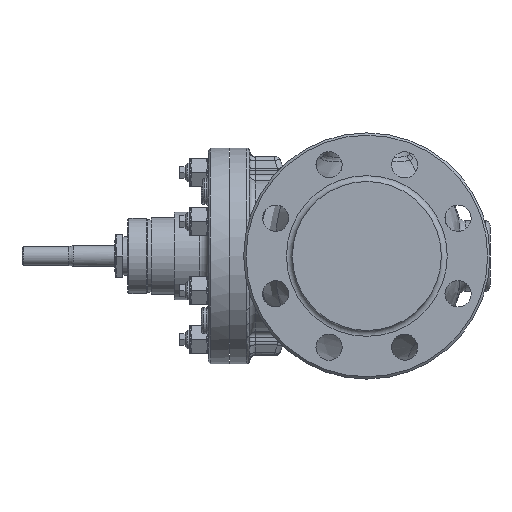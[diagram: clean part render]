
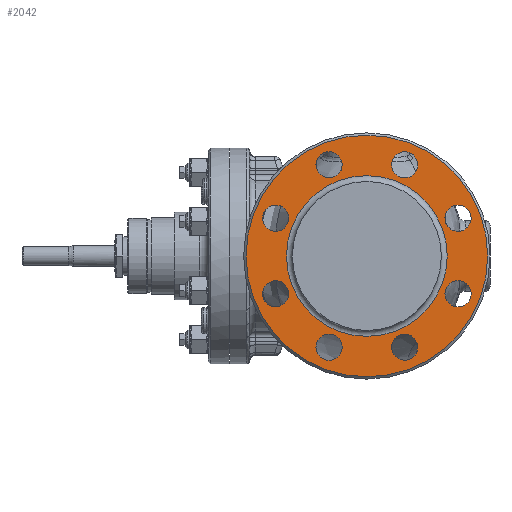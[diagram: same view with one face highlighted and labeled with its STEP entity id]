
A CAD part, left-side view. The second image highlights one B-rep face of the part: STEP entity #2042.
In plain terms, the highlighted planar face has unit normal (-1, 0, 0).
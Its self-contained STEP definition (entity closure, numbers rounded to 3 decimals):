
#141=PLANE('',#8979);
#1167=FACE_BOUND('',#3279,.T.);
#1168=FACE_BOUND('',#3280,.T.);
#1169=FACE_BOUND('',#3281,.T.);
#1170=FACE_BOUND('',#3282,.T.);
#1171=FACE_BOUND('',#3283,.T.);
#1172=FACE_BOUND('',#3284,.T.);
#1173=FACE_BOUND('',#3285,.T.);
#1174=FACE_BOUND('',#3286,.T.);
#1175=FACE_BOUND('',#3287,.T.);
#1176=FACE_BOUND('',#3288,.T.);
#1571=CIRCLE('',#8969,103.);
#1572=CIRCLE('',#8970,11.15);
#1573=CIRCLE('',#8971,11.15);
#1574=CIRCLE('',#8972,11.15);
#1575=CIRCLE('',#8973,11.15);
#1576=CIRCLE('',#8974,11.15);
#1577=CIRCLE('',#8975,11.15);
#1578=CIRCLE('',#8976,11.15);
#1579=CIRCLE('',#8977,11.15);
#1580=CIRCLE('',#8978,68.5);
#2042=ADVANCED_FACE('',(#1167,#1168,#1169,#1170,#1171,#1172,#1173,#1174,
#1175,#1176),#141,.T.);
#3279=EDGE_LOOP('',(#4227));
#3280=EDGE_LOOP('',(#4228));
#3281=EDGE_LOOP('',(#4229));
#3282=EDGE_LOOP('',(#4230));
#3283=EDGE_LOOP('',(#4231));
#3284=EDGE_LOOP('',(#4232));
#3285=EDGE_LOOP('',(#4233));
#3286=EDGE_LOOP('',(#4234));
#3287=EDGE_LOOP('',(#4235));
#3288=EDGE_LOOP('',(#4236));
#4227=ORIENTED_EDGE('',*,*,#7385,.T.);
#4228=ORIENTED_EDGE('',*,*,#7386,.F.);
#4229=ORIENTED_EDGE('',*,*,#7387,.F.);
#4230=ORIENTED_EDGE('',*,*,#7388,.F.);
#4231=ORIENTED_EDGE('',*,*,#7389,.F.);
#4232=ORIENTED_EDGE('',*,*,#7390,.F.);
#4233=ORIENTED_EDGE('',*,*,#7391,.F.);
#4234=ORIENTED_EDGE('',*,*,#7392,.F.);
#4235=ORIENTED_EDGE('',*,*,#7393,.F.);
#4236=ORIENTED_EDGE('',*,*,#7394,.T.);
#6600=VERTEX_POINT('',#13892);
#6601=VERTEX_POINT('',#13894);
#6602=VERTEX_POINT('',#13896);
#6603=VERTEX_POINT('',#13898);
#6604=VERTEX_POINT('',#13900);
#6605=VERTEX_POINT('',#13902);
#6606=VERTEX_POINT('',#13904);
#6607=VERTEX_POINT('',#13906);
#6608=VERTEX_POINT('',#13908);
#6609=VERTEX_POINT('',#13910);
#7385=EDGE_CURVE('',#6600,#6600,#1571,.T.);
#7386=EDGE_CURVE('',#6601,#6601,#1572,.T.);
#7387=EDGE_CURVE('',#6602,#6602,#1573,.T.);
#7388=EDGE_CURVE('',#6603,#6603,#1574,.T.);
#7389=EDGE_CURVE('',#6604,#6604,#1575,.T.);
#7390=EDGE_CURVE('',#6605,#6605,#1576,.T.);
#7391=EDGE_CURVE('',#6606,#6606,#1577,.T.);
#7392=EDGE_CURVE('',#6607,#6607,#1578,.T.);
#7393=EDGE_CURVE('',#6608,#6608,#1579,.T.);
#7394=EDGE_CURVE('',#6609,#6609,#1580,.T.);
#8969=AXIS2_PLACEMENT_3D('',#13891,#10126,#10127);
#8970=AXIS2_PLACEMENT_3D('',#13893,#10128,#10129);
#8971=AXIS2_PLACEMENT_3D('',#13895,#10130,#10131);
#8972=AXIS2_PLACEMENT_3D('',#13897,#10132,#10133);
#8973=AXIS2_PLACEMENT_3D('',#13899,#10134,#10135);
#8974=AXIS2_PLACEMENT_3D('',#13901,#10136,#10137);
#8975=AXIS2_PLACEMENT_3D('',#13903,#10138,#10139);
#8976=AXIS2_PLACEMENT_3D('',#13905,#10140,#10141);
#8977=AXIS2_PLACEMENT_3D('',#13907,#10142,#10143);
#8978=AXIS2_PLACEMENT_3D('',#13909,#10144,#10145);
#8979=AXIS2_PLACEMENT_3D('',#13911,#10146,#10147);
#10126=DIRECTION('',(-1.,0.,0.));
#10127=DIRECTION('',(0.,0.,1.));
#10128=DIRECTION('',(-1.,0.,0.));
#10129=DIRECTION('',(0.,0.,1.));
#10130=DIRECTION('',(-1.,0.,0.));
#10131=DIRECTION('',(0.,0.,1.));
#10132=DIRECTION('',(-1.,0.,0.));
#10133=DIRECTION('',(0.,0.,1.));
#10134=DIRECTION('',(-1.,0.,0.));
#10135=DIRECTION('',(0.,0.,1.));
#10136=DIRECTION('',(-1.,0.,0.));
#10137=DIRECTION('',(0.,0.,1.));
#10138=DIRECTION('',(-1.,0.,0.));
#10139=DIRECTION('',(0.,0.,1.));
#10140=DIRECTION('',(-1.,0.,0.));
#10141=DIRECTION('',(0.,0.,1.));
#10142=DIRECTION('',(-1.,0.,0.));
#10143=DIRECTION('',(0.,0.,1.));
#10144=DIRECTION('',(1.,0.,0.));
#10145=DIRECTION('',(0.,0.,1.));
#10146=DIRECTION('',(-1.,0.,0.));
#10147=DIRECTION('',(0.,0.,1.));
#13891=CARTESIAN_POINT('',(-161.5,-4.75,0.));
#13892=CARTESIAN_POINT('',(-161.5,-4.75,103.));
#13893=CARTESIAN_POINT('',(-161.5,27.453,77.744));
#13894=CARTESIAN_POINT('',(-161.5,27.453,88.894));
#13895=CARTESIAN_POINT('',(-161.5,-36.953,77.744));
#13896=CARTESIAN_POINT('',(-161.5,-36.953,88.894));
#13897=CARTESIAN_POINT('',(-161.5,-82.494,32.203));
#13898=CARTESIAN_POINT('',(-161.5,-82.494,43.353));
#13899=CARTESIAN_POINT('',(-161.5,-82.494,-32.203));
#13900=CARTESIAN_POINT('',(-161.5,-82.494,-21.053));
#13901=CARTESIAN_POINT('',(-161.5,-36.953,-77.744));
#13902=CARTESIAN_POINT('',(-161.5,-36.953,-66.594));
#13903=CARTESIAN_POINT('',(-161.5,27.453,-77.744));
#13904=CARTESIAN_POINT('',(-161.5,27.453,-66.594));
#13905=CARTESIAN_POINT('',(-161.5,72.994,-32.203));
#13906=CARTESIAN_POINT('',(-161.5,72.994,-21.053));
#13907=CARTESIAN_POINT('',(-161.5,72.994,32.203));
#13908=CARTESIAN_POINT('',(-161.5,72.994,43.353));
#13909=CARTESIAN_POINT('',(-161.5,-4.75,0.));
#13910=CARTESIAN_POINT('',(-161.5,-4.75,68.5));
#13911=CARTESIAN_POINT('',(-161.5,100.25,0.));
